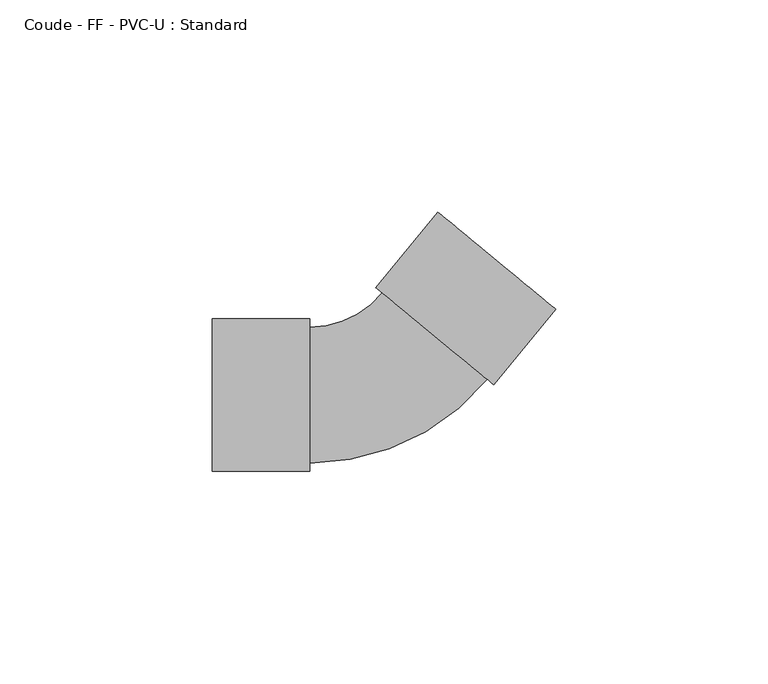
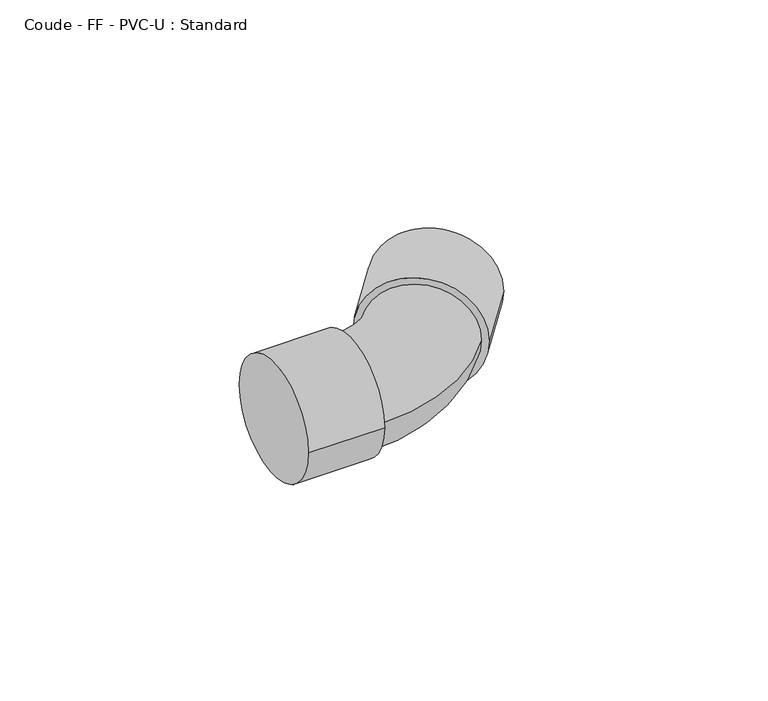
"""IFC4 building model written with IfcOpenShell, lengths in millimetres: pipe fitting geometry, Coude - FF - PVC-U : Standard."""

from ifc_helpers import new_model, si_unit, point, frame, origin, place, context, project, spatial, circle_curve, ellipse_curve, trimmed, source, transform, mapped, element, save
from ifc_brep_helpers import plane_surface, cylinder_surface, revolved_surface, advanced_brep


def coude_ff_pvc_u_standard_fb7e3dba(model_context):
    return source(origin(), model_context, "Body", "AdvancedBrep", [
        advanced_brep(
        [(-41.0, -18.0, 0.0), (-41.0, 18.0, 0.0), (-18.0, -18.0, 0.0), (-18.0, 18.0, 0.0), (-18.0, -16.0, 0.0), (-18.0, 16.0, 0.0), (-0.9070564, 24.0661017, 0.0), (23.793784, 3.7223438, 0.0), (25.3375865, 2.4508589, 0.0), (-2.4508589, 25.3375865, 0.0), (39.9596625, 20.2045879, 0.0), (12.1712171, 43.0913155, 0.0)],
        [
            (0, 1, circle_curve(frame((-41.0, 0.0, 0.0), z_axis=(-1.0, 0.0, 0.0), x_axis=(0.0, 1.0, 0.0)), 18.0)),
            (1, 0, circle_curve(frame((-41.0, 0.0, 0.0), z_axis=(-1.0, 0.0, 0.0), x_axis=(0.0, 1.0, 0.0)), 18.0)),
            (2, 3, circle_curve(frame((-18.0, 0.0, 0.0), z_axis=(1.0, 0.0, 0.0), x_axis=(0.0, 1.0, 0.0)), 18.0)),
            (3, 2, circle_curve(frame((-18.0, 0.0, 0.0), z_axis=(1.0, 0.0, 0.0), x_axis=(0.0, 1.0, 0.0)), 18.0)),
            (4, 5, circle_curve(frame((-18.0, 0.0, 0.0), z_axis=(-1.0, 0.0, 0.0), x_axis=(0.0, 1.0, 0.0)), 16.0)),
            (5, 4, circle_curve(frame((-18.0, 0.0, 0.0), z_axis=(-1.0, 0.0, 0.0), x_axis=(0.0, 1.0, 0.0)), 16.0)),
            (0, 2),
            (3, 1),
            (6, 5, circle_curve(frame((-18.0, 38.1439509, 0.0), z_axis=(0.0, 0.0, -1.0), x_axis=(0.0, -1.0, 0.0)), 22.1439509)),
            (4, 7, circle_curve(frame((-18.0, 38.1439509, 0.0), z_axis=(0.0, 0.0, 1.0), x_axis=(0.0, -1.0, 0.0)), 54.1439509)),
            (7, 6, circle_curve(frame((11.4433638, 13.8942227, 0.0), z_axis=(-0.6357424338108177, -0.771901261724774, 0.0), x_axis=(-0.771901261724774, 0.6357424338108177, 0.0)), 16.0)),
            (6, 7, circle_curve(frame((11.4433638, 13.8942227, 0.0), z_axis=(-0.6357424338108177, -0.771901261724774, 0.0), x_axis=(-0.771901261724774, 0.6357424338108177, 0.0)), 16.0)),
            (8, 9, circle_curve(frame((11.4433638, 13.8942227, 0.0), z_axis=(-0.635742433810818, -0.7719012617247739, 0.0), x_axis=(-0.7719012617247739, 0.635742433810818, 0.0)), 18.0)),
            (9, 8, circle_curve(frame((11.4433638, 13.8942227, 0.0), z_axis=(-0.635742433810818, -0.7719012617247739, 0.0), x_axis=(-0.7719012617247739, 0.635742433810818, 0.0)), 18.0)),
            (10, 11, circle_curve(frame((26.0654398, 31.6479517, 0.0), z_axis=(0.635742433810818, 0.7719012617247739, 0.0), x_axis=(-0.7719012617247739, 0.635742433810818, 0.0)), 18.0)),
            (11, 10, circle_curve(frame((26.0654398, 31.6479517, 0.0), z_axis=(0.635742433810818, 0.7719012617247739, 0.0), x_axis=(-0.7719012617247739, 0.635742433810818, 0.0)), 18.0)),
            (8, 10),
            (11, 9),
        ],
        [
            plane_surface(frame((-41.0, 0.0, 0.0), z_axis=(-1.0, 0.0, 0.0), x_axis=(0.0, 0.0, 1.0))),
            plane_surface(frame((-18.0, 0.0, 0.0), z_axis=(1.0, 0.0, 0.0), x_axis=(0.0, 0.0, 1.0))),
            cylinder_surface(frame((-41.0, 0.0, 0.0), z_axis=(-1.0, 0.0, 0.0), x_axis=(0.0, 1.0, 0.0)), 18.0),
            revolved_surface(trimmed(ellipse_curve(frame((-18.0, 0.0, 0.0), z_axis=(-1.0, 0.0, 0.0), x_axis=(0.0, 1.0, 0.0)), 16.0, 16.0), [point((-18.0, -16.0, 0.0))], [point((-18.0, 16.0, 0.0))], True, "CARTESIAN"), (-18.0, 38.1439509, 0.0), (0.0, 0.0, 1.0)),
            revolved_surface(trimmed(ellipse_curve(frame((-18.0, 0.0, 0.0), z_axis=(-1.0, 0.0, 0.0), x_axis=(0.0, 1.0, 0.0)), 16.0, 16.0), [point((-18.0, 16.0, 0.0))], [point((-18.0, -16.0, 0.0))], True, "CARTESIAN"), (-18.0, 38.1439509, 0.0), (0.0, 0.0, 1.0)),
            plane_surface(frame((11.4433638, 13.8942227, 0.0), z_axis=(-0.6357424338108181, -0.7719012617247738, 0.0), x_axis=(0.0, 0.0, 1.0))),
            plane_surface(frame((26.0654398, 31.6479517, 0.0), z_axis=(0.6357424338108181, 0.7719012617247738, 0.0), x_axis=(0.0, 0.0, 1.0))),
            cylinder_surface(frame((11.4433638, 13.8942227, 0.0), z_axis=(-0.635742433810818, -0.7719012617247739, 0.0), x_axis=(-0.7719012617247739, 0.635742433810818, 0.0)), 18.0),
        ],
        [
            (0, [[1, 2]]),
            (1, [[3, 4], [5, 6]]),
            (2, [[-1, 7, -4, 8]]),
            (2, [[-2, -8, -3, -7]]),
            (3, [[9, -5, 10, 11]]),
            (4, [[-9, 12, -10, -6]]),
            (5, [[13, 14], [-11, -12]]),
            (6, [[15, 16]]),
            (7, [[-13, 17, -16, 18]]),
            (7, [[-14, -18, -15, -17]]),
        ],
    ),
    ])


if __name__ == "__main__":
    model = new_model("IFC4")
    model_context = context("Model", 3, world=origin())
    ifc_project = project(units=[si_unit("LENGTHUNIT", "METRE", prefix="MILLI")], contexts=[model_context])
    site = spatial("IfcSite", under=ifc_project)
    building = spatial("IfcBuilding", under=site)
    placement = place(None, origin())
    coude_ff_pvc_u_standard_shape = coude_ff_pvc_u_standard_fb7e3dba(model_context)
    element("IfcPipeFitting", 1, ObjectType="Coude - FF - PVC-U : Standard", at=placement, inside=building, context=model_context, shape_type="MappedRepresentation", body=[
        mapped(coude_ff_pvc_u_standard_shape, transform((0.0, 0.0, 0.0), x_axis=(1.0, 0.0, 0.0), y_axis=(0.0, 1.0, 0.0), z_axis=(0.0, 0.0, 1.0))),
    ])
    save(model, "model.ifc")
